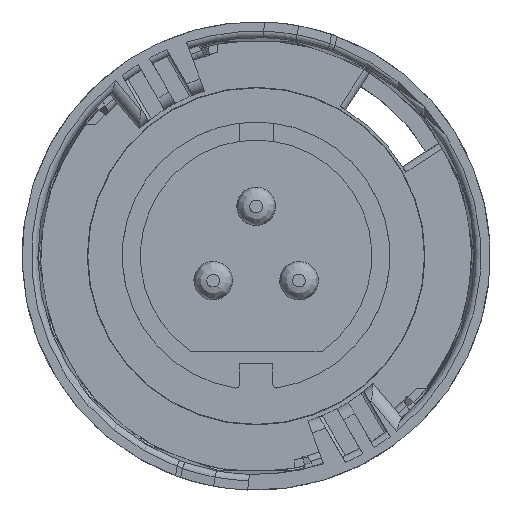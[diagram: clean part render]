
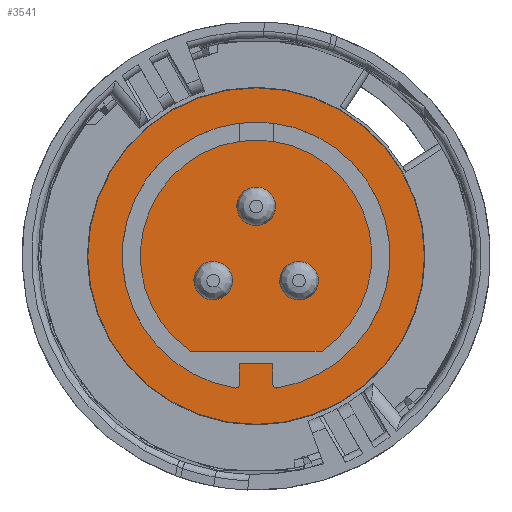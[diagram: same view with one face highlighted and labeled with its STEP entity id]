
A CAD part, top view. The second image highlights one B-rep face of the part: STEP entity #3541.
In plain terms, the highlighted planar face has unit normal (0, 0, 1).
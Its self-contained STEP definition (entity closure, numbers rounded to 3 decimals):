
#2564=PLANE('',#8622);
#3541=ADVANCED_FACE('',(#3824),#2564,.T.);
#3824=FACE_OUTER_BOUND('',#4162,.T.);
#4162=EDGE_LOOP('',(#6095));
#4560=CIRCLE('',#8619,26.166);
#6095=ORIENTED_EDGE('',*,*,#7729,.T.);
#6775=VERTEX_POINT('',#14865);
#7729=EDGE_CURVE('',#6775,#6775,#4560,.T.);
#8619=AXIS2_PLACEMENT_3D('',#14864,#10365,#10366);
#8622=AXIS2_PLACEMENT_3D('',#14869,#10371,#10372);
#10365=DIRECTION('',(0.,0.,1.));
#10366=DIRECTION('',(1.,0.,0.));
#10371=DIRECTION('',(0.,0.,1.));
#10372=DIRECTION('',(1.,0.,0.));
#14864=CARTESIAN_POINT('',(0.,0.,14.2));
#14865=CARTESIAN_POINT('',(26.166,0.,14.2));
#14869=CARTESIAN_POINT('',(0.,0.,14.2));
